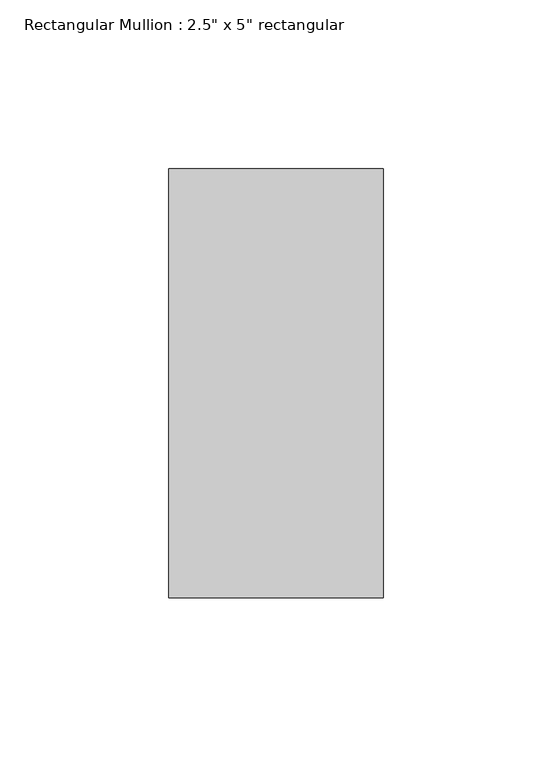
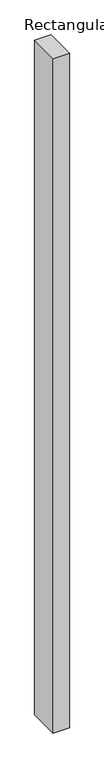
"""IFC4 building model written with IfcOpenShell, lengths in millimetres: member geometry."""

from ifc_helpers import new_model, si_unit, frame, origin, place, context, project, spatial, polyline, outline, extrude, source, transform, mapped, element, save


def member_8a16213d(model_context):
    return source(origin(), model_context, "Body", "SweptSolid", [
        extrude(outline(polyline([(0.0, 63.5), (0.0, -63.5), (-63.5, -63.5), (-63.5, 63.5), (0.0, 63.5)])), frame((0.0, 0.0, -2813.05), z_axis=(0.0, 0.0, 1.0), x_axis=(1.0, 0.0, 0.0)), (0.0, 0.0, 1.0), 2813.05),
    ])


if __name__ == "__main__":
    model = new_model("IFC4")
    model_context = context("Model", 3, world=origin())
    ifc_project = project(units=[si_unit("LENGTHUNIT", "METRE", prefix="MILLI")], contexts=[model_context])
    site = spatial("IfcSite", under=ifc_project)
    building = spatial("IfcBuilding", under=site)
    placement = place(None, origin())
    member_shape = member_8a16213d(model_context)
    element("IfcMember", 1, ObjectType="Rectangular Mullion : 2.5\" x 5\" rectangular", at=placement, inside=building, context=model_context, shape_type="MappedRepresentation", body=[
        mapped(member_shape, transform((0.0, 0.0, 0.0), x_axis=(1.0, 0.0, 0.0), y_axis=(0.0, 1.0, 0.0), z_axis=(0.0, 0.0, 1.0))),
    ])
    save(model, "model.ifc")
